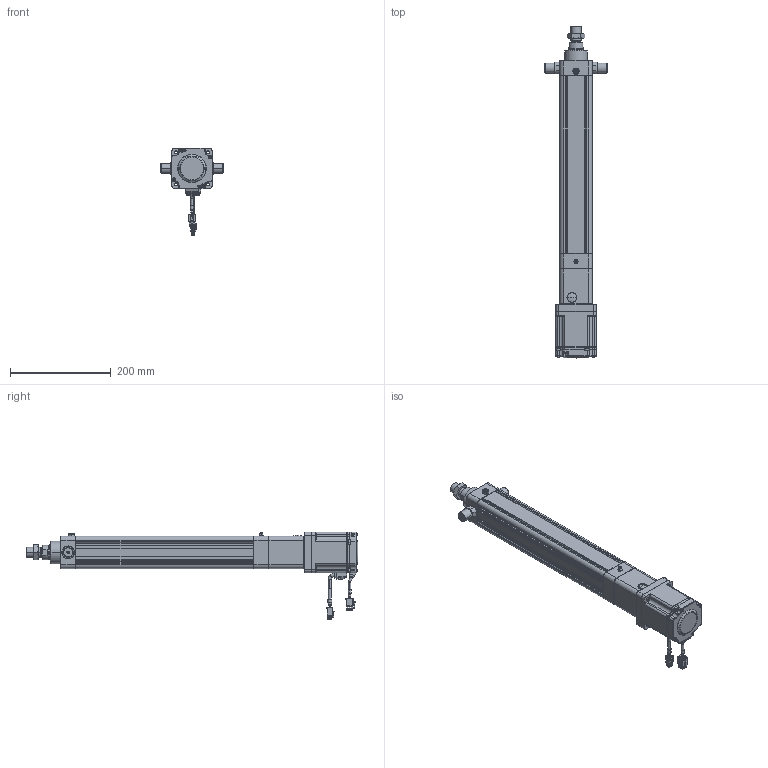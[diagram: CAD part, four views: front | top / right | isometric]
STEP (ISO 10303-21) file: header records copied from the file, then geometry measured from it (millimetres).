
FILE_DESCRIPTION((''),'2;1');
FILE_NAME('HE50-D-100-X1_ASM','2020-05-21T',('ASUS20200'),(''),'CREO PARAMETRIC BY PTC INC, 2014190','CREO PARAMETRIC BY PTC INC, 2014190','');
FILE_SCHEMA(('CONFIG_CONTROL_DESIGN'));
Length unit declared in the file: millimetre
Products named in the file (26): HE50-D-P-001-X1; HE50-D-P-002-X1; HE50-D-P-003-X1; HE50-D-009-X1; HE50-D-010-X1; 6301ZZ; LGLM-M8-22; SKT-16; SLM-01; YZ-M6X1; _MHMF082L1A2; _CABLE_MOTOR_BOTTOM_05; _CABLE_MOTOR_TOP_05; _MOTOR_CONNECTOR_2; _CABLE_BRAKE_BOTTOM_05; _CABLE_BRAKE_TOP_05; _MHMF_CONNECTOR_9_PIN_A6; MHMF082L1A2M2_1_ASM; M6X16; JX6X6X20; JDB303820; HE50-TC; HE50-D-P-005-X1; HE50-D-P-004-X1; HE50-D-P-008-X1; HE50-D-100-X1_ASM
Assembly tree (36 placements, depth 3):
  HE50-D-100-X1_ASM
    HE50-D-P-001-X1
    HE50-D-P-002-X1
    HE50-D-P-003-X1
    HE50-D-009-X1
    HE50-D-010-X1
    6301ZZ
    LGLM-M8-22  x8
    SKT-16
    SLM-01
    YZ-M6X1
    MHMF082L1A2M2_1_ASM
      _MHMF082L1A2
      _CABLE_MOTOR_BOTTOM_05
      _CABLE_MOTOR_TOP_05
      _MOTOR_CONNECTOR_2
      _CABLE_BRAKE_BOTTOM_05
      _CABLE_BRAKE_TOP_05
      _MHMF_CONNECTOR_9_PIN_A6
    M6X16  x4
    JX6X6X20
    JDB303820
    HE50-TC  x2
    HE50-D-P-005-X1
    HE50-D-P-004-X1
    HE50-D-P-008-X1
Bounding box: 124 x 658.4 x 173.65 mm (x, y, z)
Volume: 1683744 mm3; surface area: 461514.1 mm2
Topology: 35 solids, 65 shells, 2585 faces, 6301 edges, 3913 vertices
Faces by surface type: plane 1098, cylinder 749, cone 589, torus 102, sphere 44, bspline 3
Entity records: 67169 total; most frequent: CARTESIAN_POINT 12764, DIRECTION 11919, ORIENTED_EDGE 10734, EDGE_CURVE 5423, AXIS2_PLACEMENT_3D 4452, VERTEX_POINT 3397, VECTOR 3015, LINE 3015
